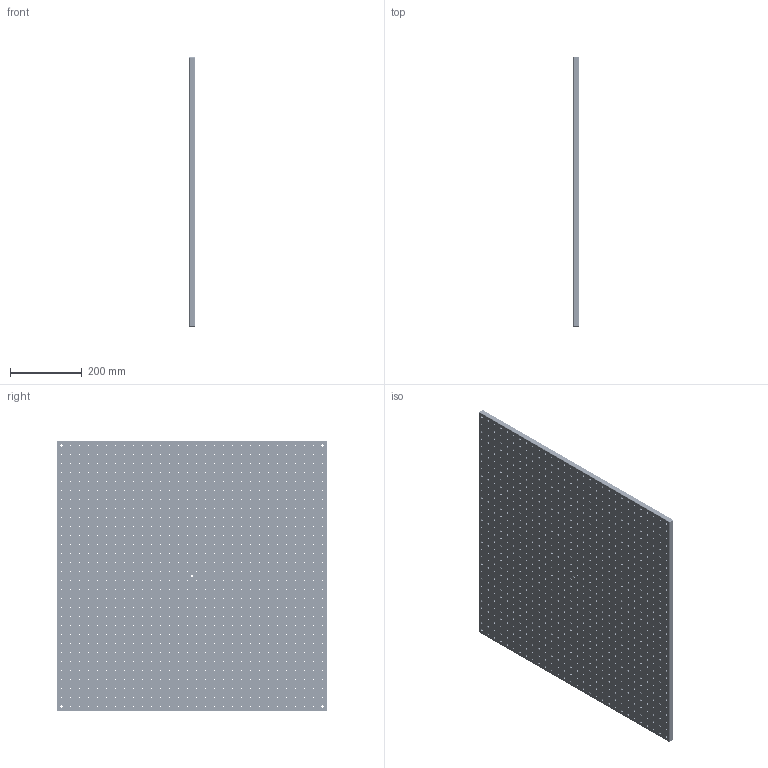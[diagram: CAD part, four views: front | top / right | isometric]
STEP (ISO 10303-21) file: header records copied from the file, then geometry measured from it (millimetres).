
FILE_DESCRIPTION(/* description */ (''),/* implementation_level */ '2;1');
FILE_NAME(/* name */ 'U:\KONSTRUKTORIAI\DOKUMENTACIJA\1\1B-ALE\1B-ALE-75-75-015\step\1B-ALE-75-75-015.stp',/* time_stamp */ '2016-06-15T08:22:08+03:00',/* author */ ('dsgn31'),/* organization */ (''),/* preprocessor_version */ 'ST-DEVELOPER v15.2',/* originating_system */ 'Autodesk Inventor 2014',/* authorisation */ '');
FILE_SCHEMA (('AUTOMOTIVE_DESIGN { 1 0 10303 214 3 1 1 }'));
Length unit declared in the file: millimetre
Products named in the file (1): 1B-ALE-75-75-015.01
Bounding box: 15 x 750 x 750 mm (x, y, z)
Volume: 8172929 mm3; surface area: 1337103.3 mm2
Topology: 1 solids, 1 shells, 2721 faces, 7238 edges, 4524 vertices
Faces by surface type: cone 1792, cylinder 906, plane 23
Full cylindrical faces by diameter (mm): 4.917 x896, 6.5 x5, 11 x5
Entity records: 67175 total; most frequent: DIRECTION 12692, CARTESIAN_POINT 9994, ORIENTED_EDGE 7288, EDGE_LOOP 7226, AXIS2_PLACEMENT_3D 6326, FACE_BOUND 4507, EDGE_CURVE 3644, VERTEX_POINT 3628
